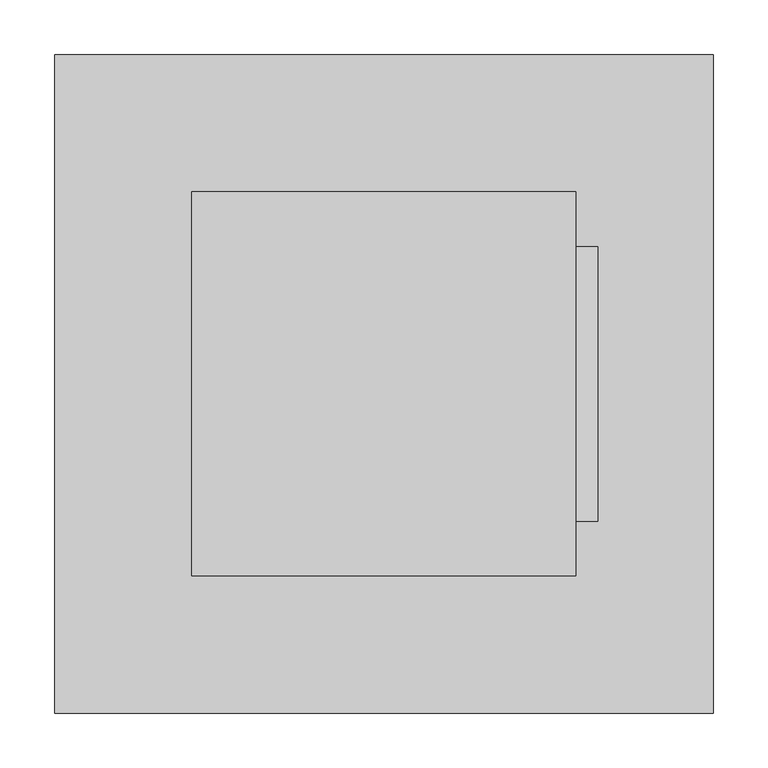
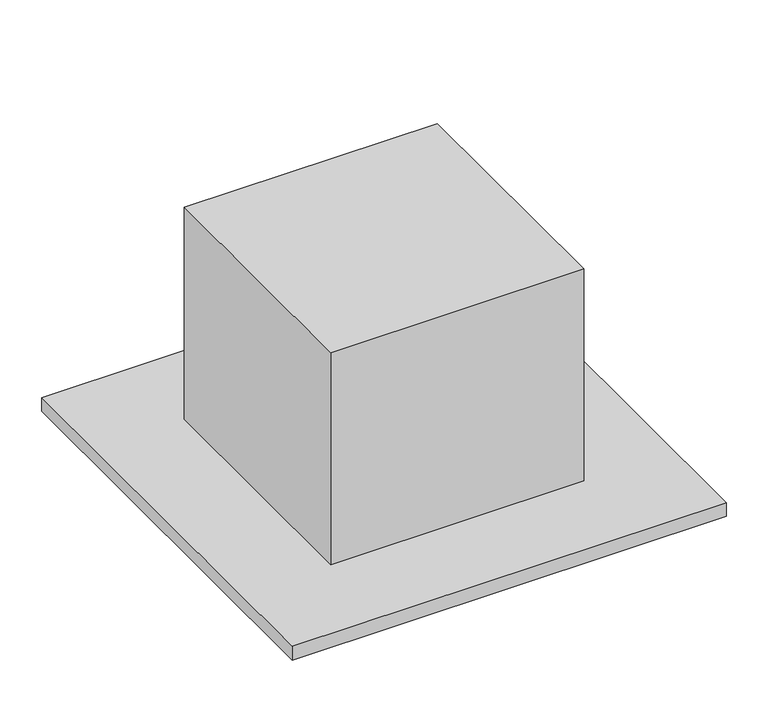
"""IFC4 building model written with IfcOpenShell, lengths in millimetres: air terminal geometry, 57_AT_plafondrooster_afv_rond_kanaal_FB : afvoer_plafondrooster_kanaaldiameter_250."""

from ifc_helpers import new_model, si_unit, point, frame, frame_2d, origin, origin_with_axes, place, context, project, spatial, polyline, circle_curve, trimmed, segment, composite_curve, outline, extrude, source, transform, mapped, element, save


def air_terminal_4e0f3b99(model_context):
    return source(origin(), model_context, "Body", "SweptSolid", [
        extrude(outline(composite_curve([segment(trimmed(circle_curve(frame_2d((0.0, 175.0)), 125.0), [point((-125.0, 175.0))], [point((125.0, 175.0))], False, "CARTESIAN"), True, "CONTINUOUS"), segment(trimmed(circle_curve(frame_2d((0.0, 175.0)), 125.0), [point((125.0, 175.0))], [point((-125.0, 175.0))], False, "CARTESIAN"), True, "CONTINUOUS")], self_intersect=False)), frame((175.0, 0.0, 0.0), z_axis=(1.0, 0.0, 0.0), x_axis=(0.0, 1.0, 0.0)), (0.0, 0.0, 1.0), 20.0),
        extrude(outline(polyline([(175.0, 175.0), (175.0, -175.0), (-175.0, -175.0), (-175.0, 175.0), (175.0, 175.0)])), frame((0.0, 0.0, 20.0), z_axis=(0.0, 0.0, 1.0), x_axis=(1.0, 0.0, 0.0)), (0.0, 0.0, 1.0), 310.0),
        extrude(outline(polyline([(300.0, 300.0), (300.0, -300.0), (-300.0, -300.0), (-300.0, 300.0), (300.0, 300.0)])), origin_with_axes(), (0.0, 0.0, 1.0), 20.0),
    ])


if __name__ == "__main__":
    model = new_model("IFC4")
    model_context = context("Model", 3, world=origin())
    ifc_project = project(units=[si_unit("LENGTHUNIT", "METRE", prefix="MILLI")], contexts=[model_context])
    site = spatial("IfcSite", under=ifc_project)
    building = spatial("IfcBuilding", under=site)
    placement = place(None, origin())
    air_terminal_shape = air_terminal_4e0f3b99(model_context)
    element("IfcAirTerminal", 1, ObjectType="57_AT_plafondrooster_afv_rond_kanaal_FB : afvoer_plafondrooster_kanaaldiameter_250", at=placement, inside=building, context=model_context, shape_type="MappedRepresentation", body=[
        mapped(air_terminal_shape, transform((0.0, 0.0, 0.0), x_axis=(1.0, 0.0, 0.0), y_axis=(0.0, 1.0, 0.0), z_axis=(0.0, 0.0, 1.0))),
    ])
    save(model, "model.ifc")
